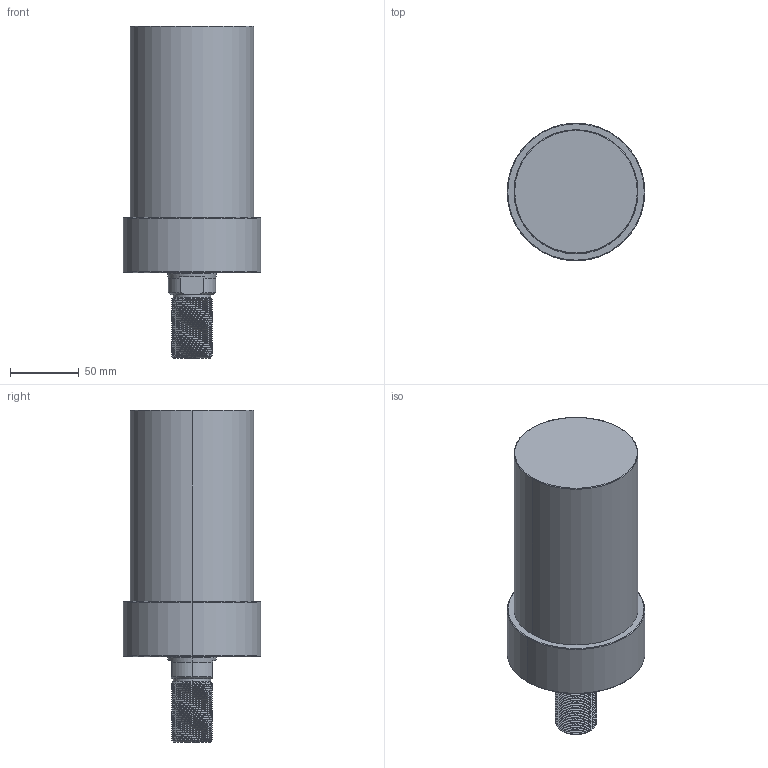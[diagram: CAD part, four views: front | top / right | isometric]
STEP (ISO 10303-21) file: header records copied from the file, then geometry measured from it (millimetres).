
FILE_DESCRIPTION (( 'STEP AP203' ), '1' );
FILE_NAME ('CLLU-090GT-095.STEP', '2020-01-15T01:27:01', ( '' ), ( '' ), 'SwSTEP 2.0', 'SolidWorks 2015', '' );
FILE_SCHEMA (( 'CONFIG_CONTROL_DESIGN' ));
Length unit declared in the file: millimetre
Products named in the file (1): CLLU-090GT-095
Bounding box: 100 x 100 x 241 mm (x, y, z)
Volume: 1236236.9 mm3; surface area: 79547 mm2
Topology: 1 solids, 1 shells, 125 faces, 326 edges, 204 vertices
Faces by surface type: cylinder 79, cone 26, plane 12, torus 6, bspline 2
Entity records: 7192 total; most frequent: CARTESIAN_POINT 4403, ORIENTED_EDGE 636, DIRECTION 515, EDGE_CURVE 318, VERTEX_POINT 204, AXIS2_PLACEMENT_3D 202, EDGE_LOOP 134, ADVANCED_FACE 125
